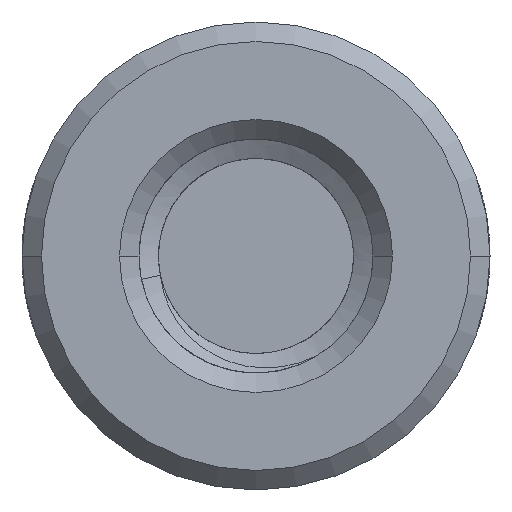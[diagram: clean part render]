
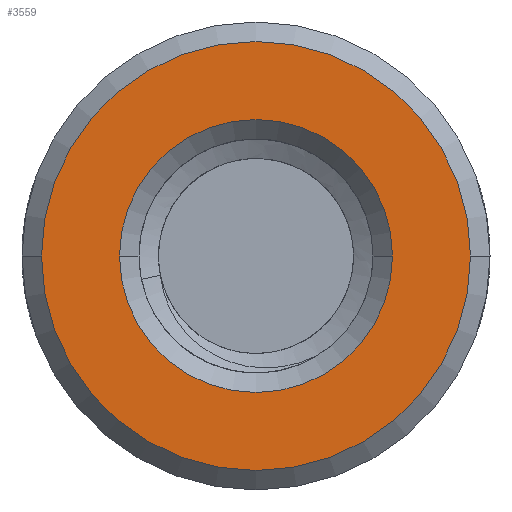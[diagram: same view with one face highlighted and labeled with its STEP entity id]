
A CAD part, front view. The second image highlights one B-rep face of the part: STEP entity #3559.
In plain terms, the highlighted planar face has unit normal (0, -1, 0).
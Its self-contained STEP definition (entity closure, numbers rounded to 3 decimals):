
#1=CARTESIAN_POINT('',(0.,0.,0.));
#2=DIRECTION('',(0.,1.,0.));
#3=DIRECTION('',(-1.,0.,0.));
#4=AXIS2_PLACEMENT_3D('',#1,#2,#3);
#6=CARTESIAN_POINT('',(0.,0.,0.));
#7=DIRECTION('',(0.,1.,0.));
#8=DIRECTION('',(1.,0.,0.));
#9=AXIS2_PLACEMENT_3D('',#6,#7,#8);
#11=CARTESIAN_POINT('',(0.,0.,0.));
#12=DIRECTION('',(0.,-1.,0.));
#13=DIRECTION('',(-1.,0.,0.));
#14=AXIS2_PLACEMENT_3D('',#11,#12,#13);
#16=CARTESIAN_POINT('',(0.,0.,0.));
#17=DIRECTION('',(0.,-1.,0.));
#18=DIRECTION('',(1.,0.,0.));
#19=AXIS2_PLACEMENT_3D('',#16,#17,#18);
#3518=CARTESIAN_POINT('',(-3.5,0.,0.));
#3519=CARTESIAN_POINT('',(3.5,0.,0.));
#3520=VERTEX_POINT('',#3518);
#3521=VERTEX_POINT('',#3519);
#3526=CARTESIAN_POINT('',(-5.5,0.,0.));
#3527=CARTESIAN_POINT('',(5.5,0.,0.));
#3528=VERTEX_POINT('',#3526);
#3529=VERTEX_POINT('',#3527);
#3542=CARTESIAN_POINT('',(0.,0.,0.));
#3543=DIRECTION('',(0.,1.,0.));
#3544=DIRECTION('',(1.,0.,0.));
#3545=AXIS2_PLACEMENT_3D('',#3542,#3543,#3544);
#3546=PLANE('',#3545);
#3548=ORIENTED_EDGE('',*,*,#3547,.F.);
#3550=ORIENTED_EDGE('',*,*,#3549,.F.);
#3551=EDGE_LOOP('',(#3548,#3550));
#3552=FACE_OUTER_BOUND('',#3551,.F.);
#3554=ORIENTED_EDGE('',*,*,#3553,.F.);
#3556=ORIENTED_EDGE('',*,*,#3555,.F.);
#3557=EDGE_LOOP('',(#3554,#3556));
#3558=FACE_BOUND('',#3557,.F.);
#3559=ADVANCED_FACE('',(#3552,#3558),#3546,.F.);
#5=CIRCLE('',#4,3.5);
#10=CIRCLE('',#9,3.5);
#15=CIRCLE('',#14,5.5);
#20=CIRCLE('',#19,5.5);
#3547=EDGE_CURVE('',#3528,#3529,#15,.T.);
#3549=EDGE_CURVE('',#3529,#3528,#20,.T.);
#3553=EDGE_CURVE('',#3520,#3521,#5,.T.);
#3555=EDGE_CURVE('',#3521,#3520,#10,.T.);
